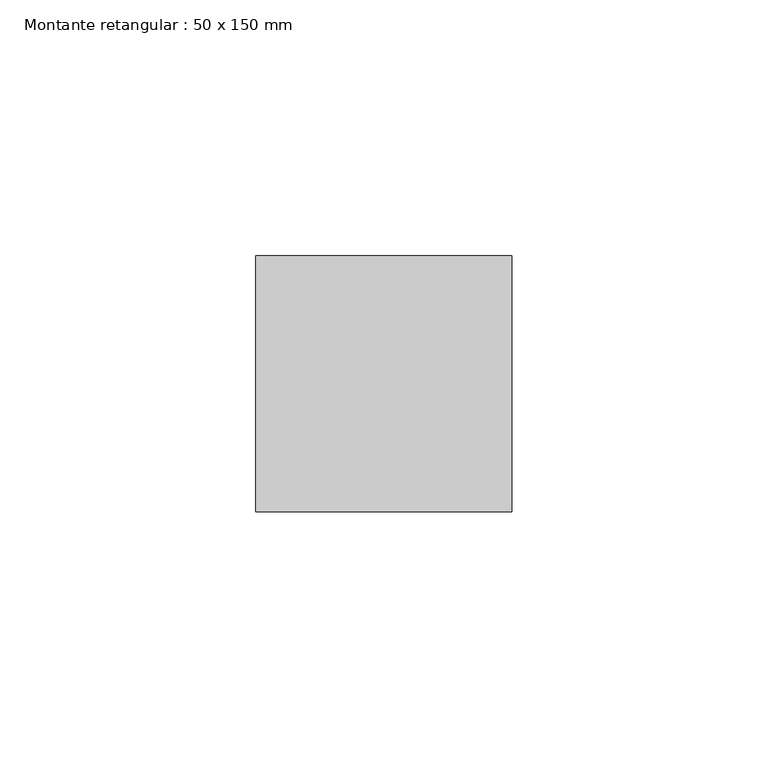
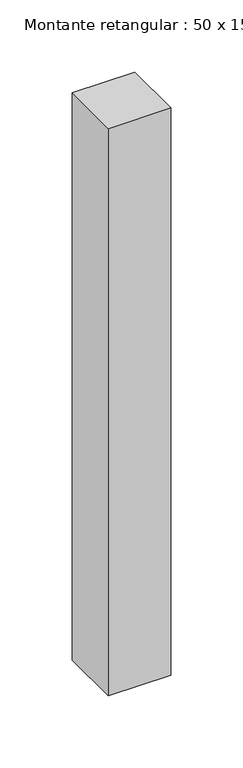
"""IFC4 building model written with IfcOpenShell, lengths in millimetres: member geometry, Montante retangular : 50 x 150 mm."""

from ifc_helpers import new_model, si_unit, frame, origin, place, context, project, spatial, polyline, outline, extrude, source, transform, mapped, element, save


def montante_retangular_50_x_150_mm_a77e6ded(model_context):
    return source(origin(), model_context, "Body", "SweptSolid", [
        extrude(outline(polyline([(25.0, 25.0), (25.0, -25.0), (-25.0, -25.0), (-25.0, 25.0), (25.0, 25.0)])), frame((0.0, 0.0, -480.0), z_axis=(0.0, 0.0, 1.0), x_axis=(1.0, 0.0, 0.0)), (0.0, 0.0, 1.0), 480.0),
    ])


if __name__ == "__main__":
    model = new_model("IFC4")
    model_context = context("Model", 3, world=origin())
    ifc_project = project(units=[si_unit("LENGTHUNIT", "METRE", prefix="MILLI")], contexts=[model_context])
    site = spatial("IfcSite", under=ifc_project)
    building = spatial("IfcBuilding", under=site)
    placement = place(None, origin())
    montante_retangular_50_x_150_mm_shape = montante_retangular_50_x_150_mm_a77e6ded(model_context)
    element("IfcMember", 1, ObjectType="Montante retangular : 50 x 150 mm", at=placement, inside=building, context=model_context, shape_type="MappedRepresentation", body=[
        mapped(montante_retangular_50_x_150_mm_shape, transform((0.0, 0.0, 0.0), x_axis=(1.0, 0.0, 0.0), y_axis=(0.0, 1.0, 0.0), z_axis=(0.0, 0.0, 1.0))),
    ])
    save(model, "model.ifc")
